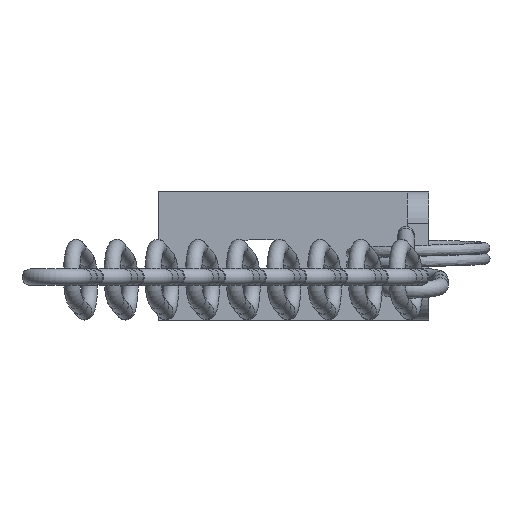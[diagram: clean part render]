
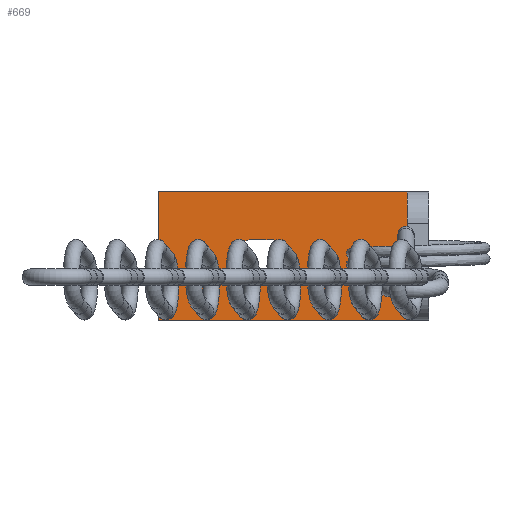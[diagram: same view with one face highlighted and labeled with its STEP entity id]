
A CAD part, left-side view. The second image highlights one B-rep face of the part: STEP entity #669.
In plain terms, the highlighted planar face has unit normal (-1, 0, 0).
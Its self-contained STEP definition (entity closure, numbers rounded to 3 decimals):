
#14=LINE('',#1388,#60);
#18=LINE('',#1398,#64);
#20=LINE('',#1404,#66);
#29=LINE('',#1421,#75);
#41=LINE('',#1445,#87);
#42=LINE('',#1447,#88);
#60=VECTOR('',#896,2.);
#64=VECTOR('',#908,2.);
#66=VECTOR('',#912,25.);
#75=VECTOR('',#923,12.);
#87=VECTOR('',#947,12.);
#88=VECTOR('',#950,25.);
#221=FACE_BOUND('',#346,.T.);
#222=FACE_BOUND('',#347,.T.);
#267=PLANE('',#757);
#346=EDGE_LOOP('',(#585,#586,#587,#588));
#347=EDGE_LOOP('',(#589,#590,#591,#592));
#375=CIRCLE('',#743,1.5);
#377=CIRCLE('',#747,1.5);
#398=VERTEX_POINT('',#1379);
#399=VERTEX_POINT('',#1381);
#401=VERTEX_POINT('',#1387);
#403=VERTEX_POINT('',#1393);
#404=VERTEX_POINT('',#1400);
#406=VERTEX_POINT('',#1403);
#412=VERTEX_POINT('',#1417);
#419=VERTEX_POINT('',#1443);
#449=EDGE_CURVE('',#399,#398,#375,.T.);
#452=EDGE_CURVE('',#401,#399,#14,.T.);
#455=EDGE_CURVE('',#403,#401,#377,.T.);
#458=EDGE_CURVE('',#398,#403,#18,.T.);
#460=EDGE_CURVE('',#406,#404,#20,.T.);
#469=EDGE_CURVE('',#412,#406,#29,.T.);
#481=EDGE_CURVE('',#404,#419,#41,.T.);
#482=EDGE_CURVE('',#419,#412,#42,.T.);
#585=ORIENTED_EDGE('',*,*,#455,.T.);
#586=ORIENTED_EDGE('',*,*,#452,.T.);
#587=ORIENTED_EDGE('',*,*,#449,.T.);
#588=ORIENTED_EDGE('',*,*,#458,.T.);
#589=ORIENTED_EDGE('',*,*,#482,.T.);
#590=ORIENTED_EDGE('',*,*,#469,.T.);
#591=ORIENTED_EDGE('',*,*,#460,.T.);
#592=ORIENTED_EDGE('',*,*,#481,.T.);
#669=ADVANCED_FACE('',(#221,#222),#267,.T.);
#743=AXIS2_PLACEMENT_3D('',#1382,#890,#891);
#747=AXIS2_PLACEMENT_3D('',#1394,#902,#903);
#757=AXIS2_PLACEMENT_3D('',#1446,#948,#949);
#890=DIRECTION('center_axis',(1.,0.,0.));
#891=DIRECTION('ref_axis',(0.,0.,1.));
#896=DIRECTION('',(0.,1.,0.));
#902=DIRECTION('center_axis',(1.,0.,0.));
#903=DIRECTION('ref_axis',(0.,0.,
-1.));
#908=DIRECTION('',(0.,-1.,0.));
#912=DIRECTION('',(0.,-1.,0.));
#923=DIRECTION('',(0.,0.,-1.));
#947=DIRECTION('',(0.,0.,1.));
#948=DIRECTION('center_axis',(-1.,0.,0.));
#949=DIRECTION('ref_axis',(0.,0.,1.));
#950=DIRECTION('',(0.,1.,0.));
#1379=CARTESIAN_POINT('',(-3.5,-3.5,1.5));
#1381=CARTESIAN_POINT('',(-3.5,-3.5,-1.5));
#1382=CARTESIAN_POINT('Origin',(-3.5,-3.5,0.));
#1387=CARTESIAN_POINT('',(-3.5,-5.5,-1.5));
#1388=CARTESIAN_POINT('',(-3.5,-11.75,-1.5));
#1393=CARTESIAN_POINT('',(-3.5,-5.5,1.5));
#1394=CARTESIAN_POINT('Origin',(-3.5,-5.5,0.));
#1398=CARTESIAN_POINT('',(-3.5,-12.75,1.5));
#1400=CARTESIAN_POINT('',(-3.5,-20.,-6.));
#1403=CARTESIAN_POINT('',(-3.5,5.,-6.));
#1404=CARTESIAN_POINT('',(-3.5,5.,-6.));
#1417=CARTESIAN_POINT('',(-3.5,5.,6.));
#1421=CARTESIAN_POINT('',(-3.5,5.,0.));
#1443=CARTESIAN_POINT('',(-3.5,-20.,6.));
#1445=CARTESIAN_POINT('',(-3.5,-20.,0.));
#1446=CARTESIAN_POINT('Origin',(-3.5,-20.,0.));
#1447=CARTESIAN_POINT('',(-3.5,5.,6.));
